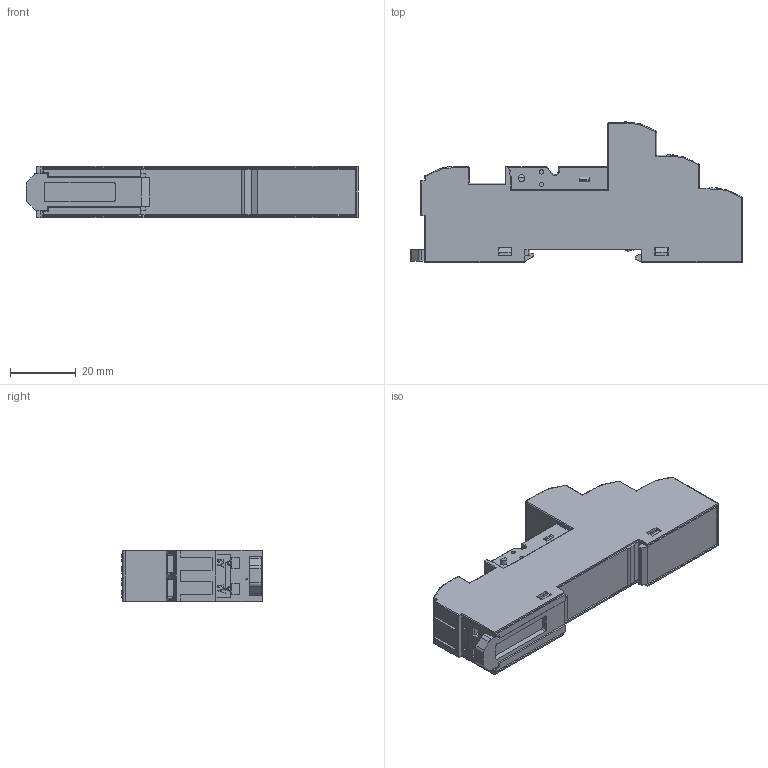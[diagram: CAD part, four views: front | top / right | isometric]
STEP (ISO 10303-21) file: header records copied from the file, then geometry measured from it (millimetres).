
FILE_DESCRIPTION (( 'STEP AP214' ), '1' );
FILE_NAME ('SRC08-ST 俋倛(陔賦凳).STEP', '2025-05-17T09:36:24', ( 'admin' ), ( '' ), 'SwSTEP 2.0', 'SolidWorks 2022', '' );
FILE_SCHEMA (( 'AUTOMOTIVE_DESIGN' ));
Length unit declared in the file: millimetre
Products named in the file (1): SRC08-ST 俋倛(陔賦凳)
Bounding box: 101.2 x 42.7 x 15.85 mm (x, y, z)
Volume: 37159.2 mm3; surface area: 27018.2 mm2
Topology: 1 solids, 4 shells, 3441 faces, 10109 edges, 6599 vertices
Faces by surface type: plane 2329, cylinder 892, torus 70, bspline 65, cone 57, sphere 28
Entity records: 142104 total; most frequent: CARTESIAN_POINT 50796, ORIENTED_EDGE 20166, DIRECTION 17243, EDGE_CURVE 10083, LINE 7597, VECTOR 7597, VERTEX_POINT 6599, AXIS2_PLACEMENT_3D 4823
